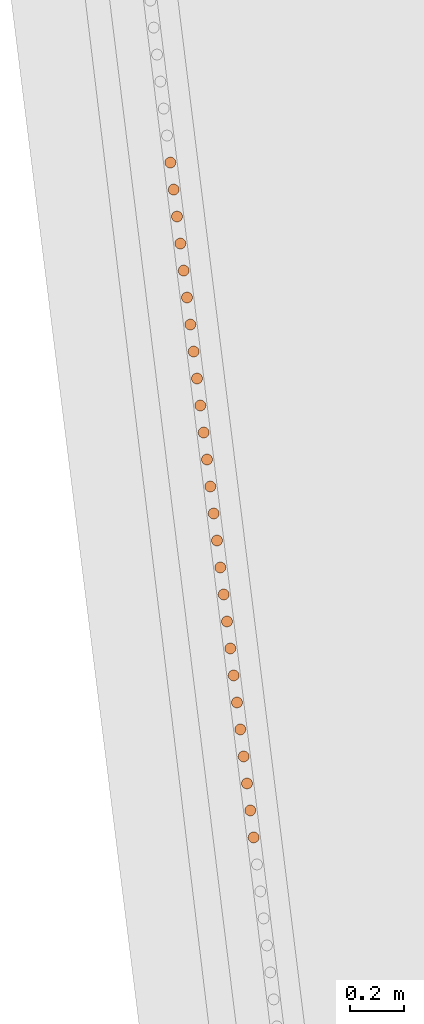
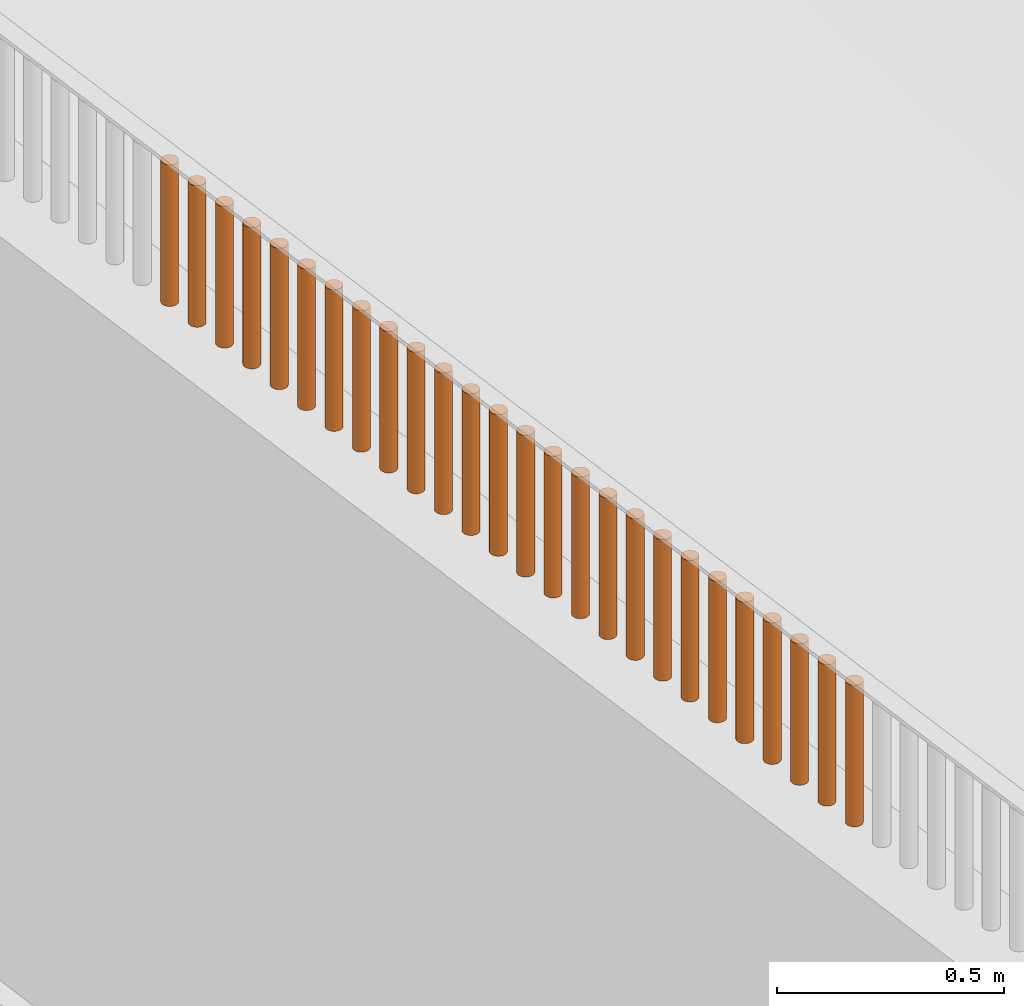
# One storey, part 233 of 1809: 26 proxies, 1 element without a shape of its own.
"""IFC2X3 building model written with IfcOpenShell, lengths in millimetres."""

from ifc_helpers import new_model, entity, si_unit, converted_unit, derived_unit, money_unit, direction, frame, origin_with_axes, place, context, subcontext, project, spatial, faceted_brep, source, transform, mapped, material, type_object, element, aggregate, save


model = new_model("IFC2X3")

# Units and contexts
model_context = context("Model", 3, precision=0.01, world=origin_with_axes(), true_north=direction((0.0, 1.0)))
body_context = subcontext(model_context, "Body", "Model", "MODEL_VIEW")
ifc_project = project(units=[si_unit("LENGTHUNIT", "METRE", prefix="MILLI"), si_unit("AREAUNIT", "SQUARE_METRE"), si_unit("VOLUMEUNIT", "CUBIC_METRE"), converted_unit("PLANEANGLEUNIT", "DEGREE", entity("IfcPlaneAngleMeasure", 0.0174532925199), si_unit("PLANEANGLEUNIT", "RADIAN"), dimensions=[0, 0, 0, 0, 0, 0, 0]), si_unit("SOLIDANGLEUNIT", "STERADIAN"), money_unit("EUR"), converted_unit("TIMEUNIT", "Year", entity("IfcTimeMeasure", 31556926.0), si_unit("TIMEUNIT", "SECOND"), dimensions=[0, 0, 1, 0, 0, 0, 0]), si_unit("MASSUNIT", "GRAM", prefix="KILO"), si_unit("THERMODYNAMICTEMPERATUREUNIT", "DEGREE_CELSIUS"), si_unit("LUMINOUSINTENSITYUNIT", "LUMEN"), si_unit("ENERGYUNIT", "JOULE", prefix="MEGA"), derived_unit("THERMALCONDUCTANCEUNIT", [(si_unit("POWERUNIT", "WATT"), 1), (si_unit("LENGTHUNIT", "METRE"), -1), (si_unit("THERMODYNAMICTEMPERATUREUNIT", "KELVIN"), -1)]), derived_unit("SPECIFICHEATCAPACITYUNIT", [(si_unit("ENERGYUNIT", "JOULE"), 1), (si_unit("MASSUNIT", "GRAM", prefix="KILO"), -1), (si_unit("THERMODYNAMICTEMPERATUREUNIT", "KELVIN"), -1)]), derived_unit("MASSDENSITYUNIT", [(si_unit("MASSUNIT", "GRAM", prefix="KILO"), 1), (si_unit("VOLUMEUNIT", "CUBIC_METRE"), -1)])], contexts=[model_context])

# Site, building, storey
site_placement = place(None, origin_with_axes())
site = spatial("IfcSite", under=ifc_project, at=site_placement, Name="Politse- ja Piirivalveameti ning Päästeameti ühishoone", CompositionType="ELEMENT")
building_placement = place(site_placement, origin_with_axes())
building = spatial("IfcBuilding", under=site, at=building_placement, Name="Politse- ja Piirivalveameti ning Päästeameti ühishoone", CompositionType="ELEMENT")
storey_placement = place(building_placement, origin_with_axes())
storey = spatial("IfcBuildingStorey", under=building, at=storey_placement, Name="Esimene korrus", CompositionType="ELEMENT", Elevation=0.0)

# Proxies
building_element_proxy_type_1 = type_object("IfcBuildingElementProxyType", Name="Railing Type", PredefinedType="NOTDEFINED")
proxy_1_placement = place(storey_placement, frame((-18956.5522504, -53688.4757966, 2100.0), z_axis=(0.0, 0.0, 1.0), x_axis=(1.0, 0.0, 0.0)))
proxy_1 = element("IfcBuildingElementProxy", 1, at=proxy_1_placement, inside=storey, type_object=building_element_proxy_type_1, Name="PIIRDEAED")
ifc_material = material(Name="ET-06_Teras - Konstruktsioon")
building_element_proxy_type_2 = type_object("IfcBuildingElementProxyType", Name="IfcBuildingElementProxy", PredefinedType="NOTDEFINED")
shared_shape_1 = source(origin_with_axes(), body_context, "Body", "Brep", [
    faceted_brep([(0.0, -20.0, 0.0), (3.47296355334, -19.6961550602, 0.0), (3.47296355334, -19.6961550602, 380.000012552), (0.0, -20.0, 380.000012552), (-3.47296355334, -19.6961550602, 0.0), (-6.84040286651, -18.7938524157, 0.0), (-10.0, -17.3205080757, 0.0), (-12.8557521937, -15.3208888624, 0.0), (-15.3208888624, -12.8557521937, 0.0), (-17.3205080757, -10.0, 0.0), (-18.7938524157, -6.84040286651, 0.0), (-19.6961550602, -3.47296355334, 0.0), (-20.0, 0.0, 0.0), (-19.6961550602, 3.47296355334, 0.0), (-18.7938524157, 6.84040286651, 0.0), (-17.3205080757, 10.0, 0.0), (-15.3208888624, 12.8557521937, 0.0), (-12.8557521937, 15.3208888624, 0.0), (-10.0, 17.3205080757, 0.0), (-6.84040286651, 18.7938524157, 0.0), (-3.47296355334, 19.6961550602, 0.0), (0.0, 20.0, 0.0), (3.47296355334, 19.6961550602, 0.0), (6.84040286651, 18.7938524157, 0.0), (10.0, 17.3205080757, 0.0), (12.8557521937, 15.3208888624, 0.0), (15.3208888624, 12.8557521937, 0.0), (17.3205080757, 10.0, 0.0), (18.7938524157, 6.84040286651, 0.0), (19.6961550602, 3.47296355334, 0.0), (20.0, 0.0, 0.0), (19.6961550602, -3.47296355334, 0.0), (18.7938524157, -6.84040286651, 0.0), (17.3205080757, -10.0, 0.0), (15.3208888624, -12.8557521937, 0.0), (12.8557521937, -15.3208888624, 0.0), (10.0, -17.3205080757, 0.0), (6.84040286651, -18.7938524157, 0.0), (6.84040286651, -18.7938524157, 380.000012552), (10.0, -17.3205080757, 380.000012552), (12.8557521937, -15.3208888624, 380.000012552), (15.3208888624, -12.8557521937, 380.000012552), (17.3205080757, -10.0, 380.000012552), (18.7938524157, -6.84040286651, 380.000012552), (19.6961550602, -3.47296355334, 380.000012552), (20.0, 0.0, 380.000012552), (19.6961550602, 3.47296355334, 380.000012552), (18.7938524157, 6.84040286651, 380.000012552), (17.3205080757, 10.0, 380.000012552), (15.3208888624, 12.8557521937, 380.000012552), (12.8557521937, 15.3208888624, 380.000012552), (10.0, 17.3205080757, 380.000012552), (6.84040286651, 18.7938524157, 380.000012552), (3.47296355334, 19.6961550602, 380.000012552), (0.0, 20.0, 380.000012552), (-3.47296355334, 19.6961550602, 380.000012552), (-6.84040286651, 18.7938524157, 380.000012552), (-10.0, 17.3205080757, 380.000012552), (-12.8557521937, 15.3208888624, 380.000012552), (-15.3208888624, 12.8557521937, 380.000012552), (-17.3205080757, 10.0, 380.000012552), (-18.7938524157, 6.84040286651, 380.000012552), (-19.6961550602, 3.47296355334, 380.000012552), (-20.0, 0.0, 380.000012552), (-19.6961550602, -3.47296355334, 380.000012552), (-18.7938524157, -6.84040286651, 380.000012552), (-17.3205080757, -10.0, 380.000012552), (-15.3208888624, -12.8557521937, 380.000012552), (-12.8557521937, -15.3208888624, 380.000012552), (-10.0, -17.3205080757, 380.000012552), (-6.84040286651, -18.7938524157, 380.000012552), (-3.47296355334, -19.6961550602, 380.000012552)], [[[0, 1, 2, 3]], [[0, 4, 5, 6, 7, 8, 9, 10, 11, 12, 13, 14, 15, 16, 17, 18, 19, 20, 21, 22, 23, 24, 25, 26, 27, 28, 29, 30, 31, 32, 33, 34, 35, 36, 37, 1]], [[1, 37, 38, 2]], [[3, 2, 38, 39, 40, 41, 42, 43, 44, 45, 46, 47, 48, 49, 50, 51, 52, 53, 54, 55, 56, 57, 58, 59, 60, 61, 62, 63, 64, 65, 66, 67, 68, 69, 70, 71]], [[4, 0, 3, 71]], [[5, 4, 71, 70]], [[6, 5, 70, 69]], [[7, 6, 69, 68]], [[8, 7, 68, 67]], [[9, 8, 67, 66]], [[10, 9, 66, 65]], [[11, 10, 65, 64]], [[12, 11, 64, 63]], [[13, 12, 63, 62]], [[14, 13, 62, 61]], [[15, 14, 61, 60]], [[16, 15, 60, 59]], [[17, 16, 59, 58]], [[18, 17, 58, 57]], [[19, 18, 57, 56]], [[20, 19, 56, 55]], [[21, 20, 55, 54]], [[22, 21, 54, 53]], [[23, 22, 53, 52]], [[24, 23, 52, 51]], [[25, 24, 51, 50]], [[26, 25, 50, 49]], [[27, 26, 49, 48]], [[28, 27, 48, 47]], [[29, 28, 47, 46]], [[30, 29, 46, 45]], [[31, 30, 45, 44]], [[32, 31, 44, 43]], [[33, 32, 43, 42]], [[34, 33, 42, 41]], [[35, 34, 41, 40]], [[36, 35, 40, 39]], [[37, 36, 39, 38]]]),
])
proxy_2_placement = place(proxy_1_placement, frame((-7441.64579059, 59454.6695004, -1.25517001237e-05), z_axis=(0.0, 0.0, 1.0), x_axis=(1.0, 0.0, 0.0)))
proxy_2 = element("IfcBuildingElementProxy", 2, at=proxy_2_placement, type_object=building_element_proxy_type_2, material=ifc_material, Name="BALUSTER - 001", context=body_context, shape_type="MappedRepresentation", body=[
    mapped(shared_shape_1, transform((0.0, 0.0, 0.0), x_axis=(0.992468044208, 0.122503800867, 0.0), y_axis=(-0.122503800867, 0.992468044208, 0.0), z_axis=(0.0, 0.0, 1.0))),
])
proxy_3_placement = place(proxy_1_placement, frame((-7466.14120042, 59653.1197632, -1.25517001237e-05), z_axis=(0.0, 0.0, 1.0), x_axis=(1.0, 0.0, 0.0)))
proxy_3 = element("IfcBuildingElementProxy", 3, at=proxy_3_placement, type_object=building_element_proxy_type_2, material=ifc_material, Name="BALUSTER - 001", context=body_context, shape_type="MappedRepresentation", body=[
    mapped(shared_shape_1, transform((0.0, 0.0, 0.0), x_axis=(0.992468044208, 0.122503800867, 0.0), y_axis=(-0.122503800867, 0.992468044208, 0.0), z_axis=(0.0, 0.0, 1.0))),
])
proxy_4_placement = place(proxy_1_placement, frame((-7527.37972498, 60149.2454203, -1.25517001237e-05), z_axis=(0.0, 0.0, 1.0), x_axis=(1.0, 0.0, 0.0)))
proxy_4 = element("IfcBuildingElementProxy", 4, at=proxy_4_placement, type_object=building_element_proxy_type_2, material=ifc_material, Name="BALUSTER - 001", context=body_context, shape_type="MappedRepresentation", body=[
    mapped(shared_shape_1, transform((0.0, 0.0, 0.0), x_axis=(0.992468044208, 0.122503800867, 0.0), y_axis=(-0.122503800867, 0.992468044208, 0.0), z_axis=(0.0, 0.0, 1.0))),
])
proxy_5_placement = place(proxy_1_placement, frame((-7551.87513481, 60347.6956832, -1.25517001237e-05), z_axis=(0.0, 0.0, 1.0), x_axis=(1.0, 0.0, 0.0)))
proxy_5 = element("IfcBuildingElementProxy", 5, at=proxy_5_placement, type_object=building_element_proxy_type_2, material=ifc_material, Name="BALUSTER - 001", context=body_context, shape_type="MappedRepresentation", body=[
    mapped(shared_shape_1, transform((0.0, 0.0, 0.0), x_axis=(0.992468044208, 0.122503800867, 0.0), y_axis=(-0.122503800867, 0.992468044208, 0.0), z_axis=(0.0, 0.0, 1.0))),
])
proxy_6_placement = place(proxy_1_placement, frame((-7564.12283972, 60446.9208146, -1.25517001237e-05), z_axis=(0.0, 0.0, 1.0), x_axis=(1.0, 0.0, 0.0)))
proxy_6 = element("IfcBuildingElementProxy", 6, at=proxy_6_placement, type_object=building_element_proxy_type_2, material=ifc_material, Name="BALUSTER - 001", context=body_context, shape_type="MappedRepresentation", body=[
    mapped(shared_shape_1, transform((0.0, 0.0, 0.0), x_axis=(0.992468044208, 0.122503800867, 0.0), y_axis=(-0.122503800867, 0.992468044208, 0.0), z_axis=(0.0, 0.0, 1.0))),
])
proxy_7_placement = place(proxy_1_placement, frame((-7576.37054463, 60546.145946, -1.25517001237e-05), z_axis=(0.0, 0.0, 1.0), x_axis=(1.0, 0.0, 0.0)))
proxy_7 = element("IfcBuildingElementProxy", 7, at=proxy_7_placement, type_object=building_element_proxy_type_2, material=ifc_material, Name="BALUSTER - 001", context=body_context, shape_type="MappedRepresentation", body=[
    mapped(shared_shape_1, transform((0.0, 0.0, 0.0), x_axis=(0.992468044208, 0.122503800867, 0.0), y_axis=(-0.122503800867, 0.992468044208, 0.0), z_axis=(0.0, 0.0, 1.0))),
])
proxy_8_placement = place(proxy_1_placement, frame((-7600.86595446, 60744.5962089, -1.25517001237e-05), z_axis=(0.0, 0.0, 1.0), x_axis=(1.0, 0.0, 0.0)))
proxy_8 = element("IfcBuildingElementProxy", 8, at=proxy_8_placement, type_object=building_element_proxy_type_2, material=ifc_material, Name="BALUSTER - 001", context=body_context, shape_type="MappedRepresentation", body=[
    mapped(shared_shape_1, transform((0.0, 0.0, 0.0), x_axis=(0.992468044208, 0.122503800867, 0.0), y_axis=(-0.122503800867, 0.992468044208, 0.0), z_axis=(0.0, 0.0, 1.0))),
])
proxy_9_placement = place(proxy_1_placement, frame((-7625.36136429, 60943.0464717, -1.25517001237e-05), z_axis=(0.0, 0.0, 1.0), x_axis=(1.0, 0.0, 0.0)))
proxy_9 = element("IfcBuildingElementProxy", 9, at=proxy_9_placement, type_object=building_element_proxy_type_2, material=ifc_material, Name="BALUSTER - 001", context=body_context, shape_type="MappedRepresentation", body=[
    mapped(shared_shape_1, transform((0.0, 0.0, 0.0), x_axis=(0.992468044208, 0.122503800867, 0.0), y_axis=(-0.122503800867, 0.992468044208, 0.0), z_axis=(0.0, 0.0, 1.0))),
])
proxy_10_placement = place(proxy_1_placement, frame((-7686.59988885, 61439.1721289, -1.25517001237e-05), z_axis=(0.0, 0.0, 1.0), x_axis=(1.0, 0.0, 0.0)))
proxy_10 = element("IfcBuildingElementProxy", 10, at=proxy_10_placement, type_object=building_element_proxy_type_2, material=ifc_material, Name="BALUSTER - 001", context=body_context, shape_type="MappedRepresentation", body=[
    mapped(shared_shape_1, transform((0.0, 0.0, 0.0), x_axis=(0.992468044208, 0.122503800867, 0.0), y_axis=(-0.122503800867, 0.992468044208, 0.0), z_axis=(0.0, 0.0, 1.0))),
])
proxy_11_placement = place(proxy_1_placement, frame((-7711.09529868, 61637.6223917, -1.25517001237e-05), z_axis=(0.0, 0.0, 1.0), x_axis=(1.0, 0.0, 0.0)))
proxy_11 = element("IfcBuildingElementProxy", 11, at=proxy_11_placement, type_object=building_element_proxy_type_2, material=ifc_material, Name="BALUSTER - 001", context=body_context, shape_type="MappedRepresentation", body=[
    mapped(shared_shape_1, transform((0.0, 0.0, 0.0), x_axis=(0.992468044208, 0.122503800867, 0.0), y_axis=(-0.122503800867, 0.992468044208, 0.0), z_axis=(0.0, 0.0, 1.0))),
])
proxy_12_placement = place(proxy_1_placement, frame((-7723.34300359, 61736.8475231, -1.25517001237e-05), z_axis=(0.0, 0.0, 1.0), x_axis=(1.0, 0.0, 0.0)))
proxy_12 = element("IfcBuildingElementProxy", 12, at=proxy_12_placement, type_object=building_element_proxy_type_2, material=ifc_material, Name="BALUSTER - 001", context=body_context, shape_type="MappedRepresentation", body=[
    mapped(shared_shape_1, transform((0.0, 0.0, 0.0), x_axis=(0.992468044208, 0.122503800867, 0.0), y_axis=(-0.122503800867, 0.992468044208, 0.0), z_axis=(0.0, 0.0, 1.0))),
])
proxy_13_placement = place(proxy_1_placement, frame((-7735.5907085, 61836.0726546, -1.25517001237e-05), z_axis=(0.0, 0.0, 1.0), x_axis=(1.0, 0.0, 0.0)))
proxy_13 = element("IfcBuildingElementProxy", 13, at=proxy_13_placement, type_object=building_element_proxy_type_2, material=ifc_material, Name="BALUSTER - 001", context=body_context, shape_type="MappedRepresentation", body=[
    mapped(shared_shape_1, transform((0.0, 0.0, 0.0), x_axis=(0.992468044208, 0.122503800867, 0.0), y_axis=(-0.122503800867, 0.992468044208, 0.0), z_axis=(0.0, 0.0, 1.0))),
])
shared_shape_2 = source(origin_with_axes(), body_context, "Body", "Brep", [
    faceted_brep([(0.0, -20.0, 0.0), (3.47296355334, -19.6961550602, 0.0), (3.47296355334, -19.6961550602, 380.000012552), (0.0, -20.0, 380.000012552), (-3.47296355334, -19.6961550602, 0.0), (-6.84040286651, -18.7938524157, 0.0), (-10.0, -17.3205080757, 0.0), (-12.8557521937, -15.3208888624, 0.0), (-15.3208888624, -12.8557521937, 0.0), (-17.3205080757, -10.0, 0.0), (-18.7938524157, -6.84040286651, 0.0), (-19.6961550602, -3.47296355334, 0.0), (-20.0, 0.0, 0.0), (-19.6961550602, 3.47296355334, 0.0), (-18.7938524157, 6.84040286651, 0.0), (-17.3205080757, 10.0, 0.0), (-15.3208888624, 12.8557521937, 0.0), (-12.8557521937, 15.3208888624, 0.0), (-10.0, 17.3205080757, 0.0), (-6.84040286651, 18.7938524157, 0.0), (-3.47296355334, 19.6961550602, 0.0), (0.0, 20.0, 0.0), (3.47296355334, 19.6961550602, 0.0), (6.84040286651, 18.7938524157, 0.0), (10.0, 17.3205080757, 0.0), (12.8557521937, 15.3208888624, 0.0), (15.3208888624, 12.8557521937, 0.0), (17.3205080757, 10.0, 0.0), (18.7938524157, 6.84040286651, 0.0), (19.6961550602, 3.47296355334, 0.0), (20.0, 0.0, 0.0), (19.6961550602, -3.47296355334, 0.0), (18.7938524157, -6.84040286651, 0.0), (17.3205080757, -10.0, 0.0), (15.3208888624, -12.8557521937, 0.0), (12.8557521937, -15.3208888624, 0.0), (10.0, -17.3205080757, 0.0), (6.84040286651, -18.7938524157, 0.0), (6.84040286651, -18.7938524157, 380.000012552), (10.0, -17.3205080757, 380.000012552), (12.8557521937, -15.3208888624, 380.000012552), (15.3208888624, -12.8557521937, 380.000012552), (17.3205080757, -10.0, 380.000012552), (18.7938524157, -6.84040286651, 380.000012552), (19.6961550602, -3.47296355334, 380.000012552), (20.0, 0.0, 380.000012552), (19.6961550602, 3.47296355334, 380.000012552), (18.7938524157, 6.84040286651, 380.000012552), (17.3205080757, 10.0, 380.000012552), (15.3208888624, 12.8557521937, 380.000012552), (12.8557521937, 15.3208888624, 380.000012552), (10.0, 17.3205080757, 380.000012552), (6.84040286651, 18.7938524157, 380.000012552), (3.47296355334, 19.6961550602, 380.000012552), (0.0, 20.0, 380.000012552), (-3.47296355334, 19.6961550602, 380.000012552), (-6.84040286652, 18.7938524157, 380.000012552), (-10.0, 17.3205080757, 380.000012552), (-12.8557521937, 15.3208888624, 380.000012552), (-15.3208888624, 12.8557521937, 380.000012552), (-17.3205080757, 10.0, 380.000012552), (-18.7938524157, 6.84040286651, 380.000012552), (-19.6961550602, 3.47296355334, 380.000012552), (-20.0, 0.0, 380.000012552), (-19.6961550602, -3.47296355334, 380.000012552), (-18.7938524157, -6.84040286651, 380.000012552), (-17.3205080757, -10.0, 380.000012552), (-15.3208888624, -12.8557521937, 380.000012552), (-12.8557521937, -15.3208888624, 380.000012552), (-10.0, -17.3205080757, 380.000012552), (-6.84040286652, -18.7938524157, 380.000012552), (-3.47296355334, -19.6961550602, 380.000012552)], [[[0, 1, 2, 3]], [[0, 4, 5, 6, 7, 8, 9, 10, 11, 12, 13, 14, 15, 16, 17, 18, 19, 20, 21, 22, 23, 24, 25, 26, 27, 28, 29, 30, 31, 32, 33, 34, 35, 36, 37, 1]], [[1, 37, 38, 2]], [[3, 2, 38, 39, 40, 41, 42, 43, 44, 45, 46, 47, 48, 49, 50, 51, 52, 53, 54, 55, 56, 57, 58, 59, 60, 61, 62, 63, 64, 65, 66, 67, 68, 69, 70, 71]], [[4, 0, 3, 71]], [[5, 4, 71, 70]], [[6, 5, 70, 69]], [[7, 6, 69, 68]], [[8, 7, 68, 67]], [[9, 8, 67, 66]], [[10, 9, 66, 65]], [[11, 10, 65, 64]], [[12, 11, 64, 63]], [[13, 12, 63, 62]], [[14, 13, 62, 61]], [[15, 14, 61, 60]], [[16, 15, 60, 59]], [[17, 16, 59, 58]], [[18, 17, 58, 57]], [[19, 18, 57, 56]], [[20, 19, 56, 55]], [[21, 20, 55, 54]], [[22, 21, 54, 53]], [[23, 22, 53, 52]], [[24, 23, 52, 51]], [[25, 24, 51, 50]], [[26, 25, 50, 49]], [[27, 26, 49, 48]], [[28, 27, 48, 47]], [[29, 28, 47, 46]], [[30, 29, 46, 45]], [[31, 30, 45, 44]], [[32, 31, 44, 43]], [[33, 32, 43, 42]], [[34, 33, 42, 41]], [[35, 34, 41, 40]], [[36, 35, 40, 39]], [[37, 36, 39, 38]]]),
])
proxy_14_placement = place(proxy_1_placement, frame((-7429.39808568, 59355.4443689, -1.25517001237e-05), z_axis=(0.0, 0.0, 1.0), x_axis=(1.0, 0.0, 0.0)))
proxy_14 = element("IfcBuildingElementProxy", 14, at=proxy_14_placement, type_object=building_element_proxy_type_2, material=ifc_material, Name="BALUSTER - 001", context=body_context, shape_type="MappedRepresentation", body=[
    mapped(shared_shape_2, transform((0.0, 0.0, 0.0), x_axis=(0.992468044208, 0.122503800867, 0.0), y_axis=(-0.122503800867, 0.992468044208, 0.0), z_axis=(0.0, 0.0, 1.0))),
])
proxy_15_placement = place(proxy_1_placement, frame((-7478.38890533, 59752.3448946, -1.25517001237e-05), z_axis=(0.0, 0.0, 1.0), x_axis=(1.0, 0.0, 0.0)))
proxy_15 = element("IfcBuildingElementProxy", 15, at=proxy_15_placement, type_object=building_element_proxy_type_2, material=ifc_material, Name="BALUSTER - 001", context=body_context, shape_type="MappedRepresentation", body=[
    mapped(shared_shape_2, transform((0.0, 0.0, 0.0), x_axis=(0.992468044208, 0.122503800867, 0.0), y_axis=(-0.122503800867, 0.992468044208, 0.0), z_axis=(0.0, 0.0, 1.0))),
])
proxy_16_placement = place(proxy_1_placement, frame((-7502.88431516, 59950.7951575, -1.25517001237e-05), z_axis=(0.0, 0.0, 1.0), x_axis=(1.0, 0.0, 0.0)))
proxy_16 = element("IfcBuildingElementProxy", 16, at=proxy_16_placement, type_object=building_element_proxy_type_2, material=ifc_material, Name="BALUSTER - 001", context=body_context, shape_type="MappedRepresentation", body=[
    mapped(shared_shape_2, transform((0.0, 0.0, 0.0), x_axis=(0.992468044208, 0.122503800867, 0.0), y_axis=(-0.122503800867, 0.992468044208, 0.0), z_axis=(0.0, 0.0, 1.0))),
])
proxy_17_placement = place(proxy_1_placement, frame((-7637.6090692, 61042.2716032, -1.25517001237e-05), z_axis=(0.0, 0.0, 1.0), x_axis=(1.0, 0.0, 0.0)))
proxy_17 = element("IfcBuildingElementProxy", 17, at=proxy_17_placement, type_object=building_element_proxy_type_2, material=ifc_material, Name="BALUSTER - 001", context=body_context, shape_type="MappedRepresentation", body=[
    mapped(shared_shape_2, transform((0.0, 0.0, 0.0), x_axis=(0.992468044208, 0.122503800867, 0.0), y_axis=(-0.122503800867, 0.992468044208, 0.0), z_axis=(0.0, 0.0, 1.0))),
])
proxy_18_placement = place(proxy_1_placement, frame((-7649.85677411, 61141.4967346, -1.25517001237e-05), z_axis=(0.0, 0.0, 1.0), x_axis=(1.0, 0.0, 0.0)))
proxy_18 = element("IfcBuildingElementProxy", 18, at=proxy_18_placement, type_object=building_element_proxy_type_2, material=ifc_material, Name="BALUSTER - 001", context=body_context, shape_type="MappedRepresentation", body=[
    mapped(shared_shape_2, transform((0.0, 0.0, 0.0), x_axis=(0.992468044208, 0.122503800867, 0.0), y_axis=(-0.122503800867, 0.992468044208, 0.0), z_axis=(0.0, 0.0, 1.0))),
])
proxy_19_placement = place(proxy_1_placement, frame((-7674.35218394, 61339.9469974, -1.25517001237e-05), z_axis=(0.0, 0.0, 1.0), x_axis=(1.0, 0.0, 0.0)))
proxy_19 = element("IfcBuildingElementProxy", 19, at=proxy_19_placement, type_object=building_element_proxy_type_2, material=ifc_material, Name="BALUSTER - 001", context=body_context, shape_type="MappedRepresentation", body=[
    mapped(shared_shape_2, transform((0.0, 0.0, 0.0), x_axis=(0.992468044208, 0.122503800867, 0.0), y_axis=(-0.122503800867, 0.992468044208, 0.0), z_axis=(0.0, 0.0, 1.0))),
])
shared_shape_3 = source(origin_with_axes(), body_context, "Body", "Brep", [
    faceted_brep([(0.0, -20.0, 0.0), (3.47296355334, -19.6961550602, 0.0), (3.47296355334, -19.6961550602, 380.000012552), (0.0, -20.0, 380.000012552), (-3.47296355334, -19.6961550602, 0.0), (-6.84040286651, -18.7938524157, 0.0), (-10.0, -17.3205080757, 0.0), (-12.8557521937, -15.3208888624, 0.0), (-15.3208888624, -12.8557521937, 0.0), (-17.3205080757, -10.0, 0.0), (-18.7938524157, -6.84040286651, 0.0), (-19.6961550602, -3.47296355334, 0.0), (-20.0, 0.0, 0.0), (-19.6961550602, 3.47296355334, 0.0), (-18.7938524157, 6.84040286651, 0.0), (-17.3205080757, 10.0, 0.0), (-15.3208888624, 12.8557521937, 0.0), (-12.8557521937, 15.3208888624, 0.0), (-10.0, 17.3205080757, 0.0), (-6.84040286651, 18.7938524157, 0.0), (-3.47296355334, 19.6961550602, 0.0), (0.0, 20.0, 0.0), (3.47296355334, 19.6961550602, 0.0), (6.84040286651, 18.7938524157, 0.0), (10.0, 17.3205080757, 0.0), (12.8557521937, 15.3208888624, 0.0), (15.3208888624, 12.8557521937, 0.0), (17.3205080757, 10.0, 0.0), (18.7938524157, 6.84040286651, 0.0), (19.6961550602, 3.47296355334, 0.0), (20.0, 0.0, 0.0), (19.6961550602, -3.47296355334, 0.0), (18.7938524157, -6.84040286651, 0.0), (17.3205080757, -10.0, 0.0), (15.3208888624, -12.8557521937, 0.0), (12.8557521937, -15.3208888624, 0.0), (10.0, -17.3205080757, 0.0), (6.84040286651, -18.7938524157, 0.0), (6.84040286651, -18.7938524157, 380.000012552), (10.0, -17.3205080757, 380.000012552), (12.8557521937, -15.3208888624, 380.000012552), (15.3208888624, -12.8557521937, 380.000012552), (17.3205080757, -10.0, 380.000012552), (18.7938524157, -6.84040286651, 380.000012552), (19.6961550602, -3.47296355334, 380.000012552), (20.0, 0.0, 380.000012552), (19.6961550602, 3.47296355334, 380.000012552), (18.7938524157, 6.84040286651, 380.000012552), (17.3205080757, 10.0, 380.000012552), (15.3208888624, 12.8557521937, 380.000012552), (12.8557521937, 15.3208888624, 380.000012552), (10.0, 17.3205080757, 380.000012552), (6.84040286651, 18.7938524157, 380.000012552), (3.47296355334, 19.6961550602, 380.000012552), (0.0, 20.0, 380.000012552), (-3.47296355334, 19.6961550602, 380.000012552), (-6.84040286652, 18.7938524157, 380.000012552), (-10.0, 17.3205080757, 380.000012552), (-12.8557521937, 15.3208888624, 380.000012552), (-15.3208888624, 12.8557521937, 380.000012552), (-17.3205080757, 10.0, 380.000012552), (-18.7938524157, 6.84040286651, 380.000012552), (-19.6961550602, 3.47296355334, 380.000012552), (-20.0, 0.0, 380.000012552), (-19.6961550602, -3.47296355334, 380.000012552), (-18.7938524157, -6.84040286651, 380.000012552), (-17.3205080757, -10.0, 380.000012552), (-15.3208888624, -12.8557521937, 380.000012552), (-12.8557521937, -15.3208888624, 380.000012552), (-10.0, -17.3205080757, 380.000012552), (-6.84040286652, -18.7938524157, 380.000012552), (-3.47296355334, -19.6961550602, 380.000012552)], [[[0, 1, 2, 3]], [[0, 4, 5, 6, 7, 8, 9, 10, 11, 12, 13, 14, 15, 16, 17, 18, 19, 20, 21, 22, 23, 24, 25, 26, 27, 28, 29, 30, 31, 32, 33, 34, 35, 36, 37, 1]], [[1, 37, 38, 2]], [[3, 2, 38, 39, 40, 41, 42, 43, 44, 45, 46, 47, 48, 49, 50, 51, 52, 53, 54, 55, 56, 57, 58, 59, 60, 61, 62, 63, 64, 65, 66, 67, 68, 69, 70, 71]], [[4, 0, 3, 71]], [[5, 4, 71, 70]], [[6, 5, 70, 69]], [[7, 6, 69, 68]], [[8, 7, 68, 67]], [[9, 8, 67, 66]], [[10, 9, 66, 65]], [[11, 10, 65, 64]], [[12, 11, 64, 63]], [[13, 12, 63, 62]], [[14, 13, 62, 61]], [[15, 14, 61, 60]], [[16, 15, 60, 59]], [[17, 16, 59, 58]], [[18, 17, 58, 57]], [[19, 18, 57, 56]], [[20, 19, 56, 55]], [[21, 20, 55, 54]], [[22, 21, 54, 53]], [[23, 22, 53, 52]], [[24, 23, 52, 51]], [[25, 24, 51, 50]], [[26, 25, 50, 49]], [[27, 26, 49, 48]], [[28, 27, 48, 47]], [[29, 28, 47, 46]], [[30, 29, 46, 45]], [[31, 30, 45, 44]], [[32, 31, 44, 43]], [[33, 32, 43, 42]], [[34, 33, 42, 41]], [[35, 34, 41, 40]], [[36, 35, 40, 39]], [[37, 36, 39, 38]]]),
])
proxy_20_placement = place(proxy_1_placement, frame((-7490.63661024, 59851.5700261, -1.25517001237e-05), z_axis=(0.0, 0.0, 1.0), x_axis=(1.0, 0.0, 0.0)))
proxy_20 = element("IfcBuildingElementProxy", 20, at=proxy_20_placement, type_object=building_element_proxy_type_2, material=ifc_material, Name="BALUSTER - 001", context=body_context, shape_type="MappedRepresentation", body=[
    mapped(shared_shape_3, transform((0.0, 0.0, 0.0), x_axis=(0.992468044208, 0.122503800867, 0.0), y_axis=(-0.122503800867, 0.992468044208, 0.0), z_axis=(0.0, 0.0, 1.0))),
])
proxy_21_placement = place(proxy_1_placement, frame((-7539.62742989, 60248.4705518, -1.25517001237e-05), z_axis=(0.0, 0.0, 1.0), x_axis=(1.0, 0.0, 0.0)))
proxy_21 = element("IfcBuildingElementProxy", 21, at=proxy_21_placement, type_object=building_element_proxy_type_2, material=ifc_material, Name="BALUSTER - 001", context=body_context, shape_type="MappedRepresentation", body=[
    mapped(shared_shape_3, transform((0.0, 0.0, 0.0), x_axis=(0.992468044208, 0.122503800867, 0.0), y_axis=(-0.122503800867, 0.992468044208, 0.0), z_axis=(0.0, 0.0, 1.0))),
])
proxy_22_placement = place(proxy_1_placement, frame((-7588.61824955, 60645.3710775, -1.25517001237e-05), z_axis=(0.0, 0.0, 1.0), x_axis=(1.0, 0.0, 0.0)))
proxy_22 = element("IfcBuildingElementProxy", 22, at=proxy_22_placement, type_object=building_element_proxy_type_2, material=ifc_material, Name="BALUSTER - 001", context=body_context, shape_type="MappedRepresentation", body=[
    mapped(shared_shape_3, transform((0.0, 0.0, 0.0), x_axis=(0.992468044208, 0.122503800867, 0.0), y_axis=(-0.122503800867, 0.992468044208, 0.0), z_axis=(0.0, 0.0, 1.0))),
])
proxy_23_placement = place(proxy_1_placement, frame((-7698.84759376, 61538.3972603, -1.25517001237e-05), z_axis=(0.0, 0.0, 1.0), x_axis=(1.0, 0.0, 0.0)))
proxy_23 = element("IfcBuildingElementProxy", 23, at=proxy_23_placement, type_object=building_element_proxy_type_2, material=ifc_material, Name="BALUSTER - 001", context=body_context, shape_type="MappedRepresentation", body=[
    mapped(shared_shape_3, transform((0.0, 0.0, 0.0), x_axis=(0.992468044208, 0.122503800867, 0.0), y_axis=(-0.122503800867, 0.992468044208, 0.0), z_axis=(0.0, 0.0, 1.0))),
])
shared_shape_4 = source(origin_with_axes(), body_context, "Body", "Brep", [
    faceted_brep([(0.0, -20.0, 0.0), (3.47296355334, -19.6961550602, 0.0), (3.47296355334, -19.6961550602, 380.000012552), (0.0, -20.0, 380.000012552), (-3.47296355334, -19.6961550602, 0.0), (-6.84040286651, -18.7938524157, 0.0), (-10.0, -17.3205080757, 0.0), (-12.8557521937, -15.3208888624, 0.0), (-15.3208888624, -12.8557521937, 0.0), (-17.3205080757, -10.0, 0.0), (-18.7938524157, -6.84040286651, 0.0), (-19.6961550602, -3.47296355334, 0.0), (-20.0, 0.0, 0.0), (-19.6961550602, 3.47296355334, 0.0), (-18.7938524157, 6.84040286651, 0.0), (-17.3205080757, 10.0, 0.0), (-15.3208888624, 12.8557521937, 0.0), (-12.8557521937, 15.3208888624, 0.0), (-10.0, 17.3205080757, 0.0), (-6.84040286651, 18.7938524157, 0.0), (-3.47296355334, 19.6961550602, 0.0), (0.0, 20.0, 0.0), (3.47296355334, 19.6961550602, 0.0), (6.84040286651, 18.7938524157, 0.0), (10.0, 17.3205080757, 0.0), (12.8557521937, 15.3208888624, 0.0), (15.3208888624, 12.8557521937, 0.0), (17.3205080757, 10.0, 0.0), (18.7938524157, 6.84040286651, 0.0), (19.6961550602, 3.47296355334, 0.0), (20.0, 0.0, 0.0), (19.6961550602, -3.47296355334, 0.0), (18.7938524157, -6.84040286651, 0.0), (17.3205080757, -10.0, 0.0), (15.3208888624, -12.8557521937, 0.0), (12.8557521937, -15.3208888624, 0.0), (10.0, -17.3205080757, 0.0), (6.84040286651, -18.7938524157, 0.0), (6.84040286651, -18.7938524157, 380.000012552), (10.0, -17.3205080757, 380.000012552), (12.8557521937, -15.3208888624, 380.000012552), (15.3208888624, -12.8557521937, 380.000012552), (17.3205080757, -10.0, 380.000012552), (18.7938524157, -6.84040286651, 380.000012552), (19.6961550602, -3.47296355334, 380.000012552), (20.0, 0.0, 380.000012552), (19.6961550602, 3.47296355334, 380.000012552), (18.7938524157, 6.84040286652, 380.000012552), (17.3205080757, 10.0, 380.000012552), (15.3208888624, 12.8557521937, 380.000012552), (12.8557521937, 15.3208888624, 380.000012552), (10.0, 17.3205080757, 380.000012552), (6.84040286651, 18.7938524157, 380.000012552), (3.47296355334, 19.6961550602, 380.000012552), (0.0, 20.0, 380.000012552), (-3.47296355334, 19.6961550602, 380.000012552), (-6.84040286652, 18.7938524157, 380.000012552), (-10.0, 17.3205080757, 380.000012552), (-12.8557521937, 15.3208888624, 380.000012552), (-15.3208888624, 12.8557521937, 380.000012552), (-17.3205080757, 10.0, 380.000012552), (-18.7938524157, 6.84040286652, 380.000012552), (-19.6961550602, 3.47296355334, 380.000012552), (-20.0, 0.0, 380.000012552), (-19.6961550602, -3.47296355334, 380.000012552), (-18.7938524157, -6.84040286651, 380.000012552), (-17.3205080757, -10.0, 380.000012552), (-15.3208888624, -12.8557521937, 380.000012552), (-12.8557521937, -15.3208888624, 380.000012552), (-10.0, -17.3205080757, 380.000012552), (-6.84040286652, -18.7938524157, 380.000012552), (-3.47296355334, -19.6961550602, 380.000012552)], [[[0, 1, 2, 3]], [[0, 4, 5, 6, 7, 8, 9, 10, 11, 12, 13, 14, 15, 16, 17, 18, 19, 20, 21, 22, 23, 24, 25, 26, 27, 28, 29, 30, 31, 32, 33, 34, 35, 36, 37, 1]], [[1, 37, 38, 2]], [[3, 2, 38, 39, 40, 41, 42, 43, 44, 45, 46, 47, 48, 49, 50, 51, 52, 53, 54, 55, 56, 57, 58, 59, 60, 61, 62, 63, 64, 65, 66, 67, 68, 69, 70, 71]], [[4, 0, 3, 71]], [[5, 4, 71, 70]], [[6, 5, 70, 69]], [[7, 6, 69, 68]], [[8, 7, 68, 67]], [[9, 8, 67, 66]], [[10, 9, 66, 65]], [[11, 10, 65, 64]], [[12, 11, 64, 63]], [[13, 12, 63, 62]], [[14, 13, 62, 61]], [[15, 14, 61, 60]], [[16, 15, 60, 59]], [[17, 16, 59, 58]], [[18, 17, 58, 57]], [[19, 18, 57, 56]], [[20, 19, 56, 55]], [[21, 20, 55, 54]], [[22, 21, 54, 53]], [[23, 22, 53, 52]], [[24, 23, 52, 51]], [[25, 24, 51, 50]], [[26, 25, 50, 49]], [[27, 26, 49, 48]], [[28, 27, 48, 47]], [[29, 28, 47, 46]], [[30, 29, 46, 45]], [[31, 30, 45, 44]], [[32, 31, 44, 43]], [[33, 32, 43, 42]], [[34, 33, 42, 41]], [[35, 34, 41, 40]], [[36, 35, 40, 39]], [[37, 36, 39, 38]]]),
])
proxy_24_placement = place(proxy_1_placement, frame((-7453.8934955, 59553.8946318, -1.25517001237e-05), z_axis=(0.0, 0.0, 1.0), x_axis=(1.0, 0.0, 0.0)))
proxy_24 = element("IfcBuildingElementProxy", 24, at=proxy_24_placement, type_object=building_element_proxy_type_2, material=ifc_material, Name="BALUSTER - 001", context=body_context, shape_type="MappedRepresentation", body=[
    mapped(shared_shape_4, transform((0.0, 0.0, 0.0), x_axis=(0.992468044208, 0.122503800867, 0.0), y_axis=(-0.122503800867, 0.992468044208, 0.0), z_axis=(0.0, 0.0, 1.0))),
])
proxy_25_placement = place(proxy_1_placement, frame((-7515.13202007, 60050.0202889, -1.25517001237e-05), z_axis=(0.0, 0.0, 1.0), x_axis=(1.0, 0.0, 0.0)))
proxy_25 = element("IfcBuildingElementProxy", 25, at=proxy_25_placement, type_object=building_element_proxy_type_2, material=ifc_material, Name="BALUSTER - 001", context=body_context, shape_type="MappedRepresentation", body=[
    mapped(shared_shape_4, transform((0.0, 0.0, 0.0), x_axis=(0.992468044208, 0.122503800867, 0.0), y_axis=(-0.122503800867, 0.992468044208, 0.0), z_axis=(0.0, 0.0, 1.0))),
])
proxy_26_placement = place(proxy_1_placement, frame((-7613.11365937, 60843.8213403, -1.25517001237e-05), z_axis=(0.0, 0.0, 1.0), x_axis=(1.0, 0.0, 0.0)))
proxy_26 = element("IfcBuildingElementProxy", 26, at=proxy_26_placement, type_object=building_element_proxy_type_2, material=ifc_material, Name="BALUSTER - 001", context=body_context, shape_type="MappedRepresentation", body=[
    mapped(shared_shape_4, transform((0.0, 0.0, 0.0), x_axis=(0.992468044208, 0.122503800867, 0.0), y_axis=(-0.122503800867, 0.992468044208, 0.0), z_axis=(0.0, 0.0, 1.0))),
])
proxy_27_placement = place(proxy_1_placement, frame((-7662.10447903, 61240.721866, -1.25517001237e-05), z_axis=(0.0, 0.0, 1.0), x_axis=(1.0, 0.0, 0.0)))
proxy_27 = element("IfcBuildingElementProxy", 27, at=proxy_27_placement, type_object=building_element_proxy_type_2, material=ifc_material, Name="BALUSTER - 001", context=body_context, shape_type="MappedRepresentation", body=[
    mapped(shared_shape_4, transform((0.0, 0.0, 0.0), x_axis=(0.992468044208, 0.122503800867, 0.0), y_axis=(-0.122503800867, 0.992468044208, 0.0), z_axis=(0.0, 0.0, 1.0))),
])
aggregate(proxy_1, [proxy_14, proxy_2, proxy_24, proxy_3, proxy_15, proxy_20, proxy_16, proxy_25, proxy_4, proxy_21, proxy_5, proxy_6, proxy_7, proxy_22, proxy_8, proxy_26, proxy_9, proxy_17, proxy_18, proxy_27, proxy_19, proxy_10, proxy_23, proxy_11, proxy_12, proxy_13])

save(model, "model.ifc")
